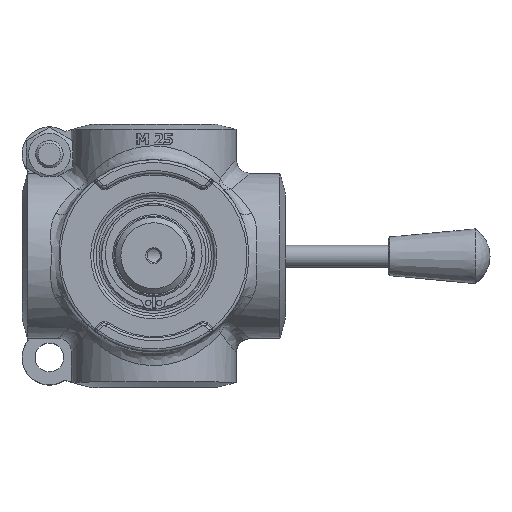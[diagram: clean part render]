
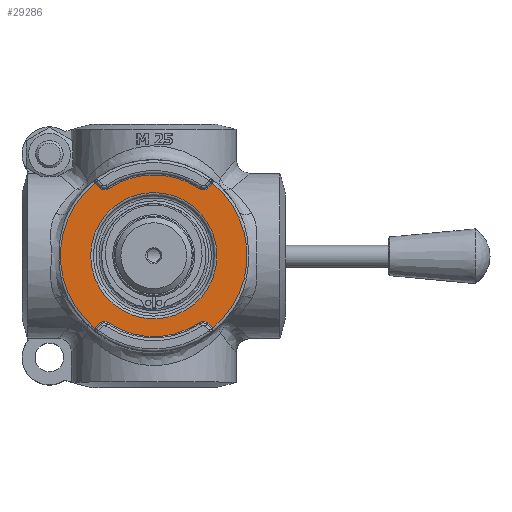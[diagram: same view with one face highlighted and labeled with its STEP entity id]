
A CAD part, top view. The second image highlights one B-rep face of the part: STEP entity #29286.
In plain terms, the highlighted planar face has unit normal (0, 0, 1).
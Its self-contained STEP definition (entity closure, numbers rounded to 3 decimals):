
#20663=CARTESIAN_POINT('',(23.,0.,93.));
#20664=VERTEX_POINT('',#20663);
#20665=CARTESIAN_POINT('',(0.,0.,93.));
#20666=DIRECTION('',(0.0,0.0,1.0));
#20667=DIRECTION('',(-1.0,0.0,0.0));
#20668=AXIS2_PLACEMENT_3D('',#20665,#20666,#20667);
#20669=CIRCLE('',#20668,23.);
#20670=EDGE_CURVE('',#20664,#20664,#20669,.T.);
#29107=CARTESIAN_POINT('',(-21.43,-26.396,93.));
#29108=VERTEX_POINT('',#29107);
#29120=CARTESIAN_POINT('',(-21.43,26.396,93.));
#29121=VERTEX_POINT('',#29120);
#29122=CARTESIAN_POINT('',(0.,0.,93.));
#29123=DIRECTION('',(0.0,0.0,-1.0));
#29124=DIRECTION('',(-1.0,0.0,0.0));
#29125=AXIS2_PLACEMENT_3D('',#29122,#29123,#29124);
#29126=CIRCLE('',#29125,34.0);
#29127=EDGE_CURVE('',#29108,#29121,#29126,.T.);
#29146=CARTESIAN_POINT('',(0.,0.,93.));
#29147=DIRECTION('',(0.0,0.0,-1.0));
#29148=DIRECTION('',(-1.0,0.0,0.0));
#29149=AXIS2_PLACEMENT_3D('',#29146,#29147,#29148);
#29150=PLANE('',#29149);
#29151=CARTESIAN_POINT('',(21.43,-26.396,93.));
#29152=VERTEX_POINT('',#29151);
#29153=CARTESIAN_POINT('',(21.305,-26.255,93.));
#29154=VERTEX_POINT('',#29153);
#29155=CARTESIAN_POINT('',(20.245,-27.316,93.));
#29156=DIRECTION('',(0.,0.,1.0));
#29157=DIRECTION('',(0.752,0.659,0.));
#29158=AXIS2_PLACEMENT_3D('',#29155,#29156,#29157);
#29159=CIRCLE('',#29158,1.5);
#29160=EDGE_CURVE('',#29152,#29154,#29159,.T.);
#29161=ORIENTED_EDGE('',*,*,#29160,.F.);
#29162=CARTESIAN_POINT('',(21.43,26.396,93.));
#29163=VERTEX_POINT('',#29162);
#29164=CARTESIAN_POINT('',(0.,0.,93.));
#29165=DIRECTION('',(0.0,0.0,-1.0));
#29166=DIRECTION('',(1.0,0.0,0.0));
#29167=AXIS2_PLACEMENT_3D('',#29164,#29165,#29166);
#29168=CIRCLE('',#29167,34.0);
#29169=EDGE_CURVE('',#29163,#29152,#29168,.T.);
#29170=ORIENTED_EDGE('',*,*,#29169,.F.);
#29171=CARTESIAN_POINT('',(21.305,26.255,93.));
#29172=VERTEX_POINT('',#29171);
#29173=CARTESIAN_POINT('',(20.245,27.316,93.));
#29174=DIRECTION('',(0.,0.,1.0));
#29175=DIRECTION('',(0.752,-0.659,0.));
#29176=AXIS2_PLACEMENT_3D('',#29173,#29174,#29175);
#29177=CIRCLE('',#29176,1.5);
#29178=EDGE_CURVE('',#29172,#29163,#29177,.T.);
#29179=ORIENTED_EDGE('',*,*,#29178,.F.);
#29180=CARTESIAN_POINT('',(19.751,24.701,93.));
#29181=VERTEX_POINT('',#29180);
#29182=CARTESIAN_POINT('',(19.751,24.701,93.));
#29183=DIRECTION('',(0.707,0.707,0.0));
#29184=VECTOR('',#29183,2.198);
#29185=LINE('',#29182,#29184);
#29186=EDGE_CURVE('',#29181,#29172,#29185,.T.);
#29187=ORIENTED_EDGE('',*,*,#29186,.F.);
#29188=CARTESIAN_POINT('',(16.579,24.401,93.));
#29189=VERTEX_POINT('',#29188);
#29190=CARTESIAN_POINT('',(17.983,26.469,93.));
#29191=DIRECTION('',(0.,0.,1.0));
#29192=DIRECTION('',(0.094,-0.996,0.));
#29193=AXIS2_PLACEMENT_3D('',#29190,#29191,#29192);
#29194=CIRCLE('',#29193,2.5);
#29195=EDGE_CURVE('',#29189,#29181,#29194,.T.);
#29196=ORIENTED_EDGE('',*,*,#29195,.F.);
#29197=CARTESIAN_POINT('',(-16.579,24.401,93.));
#29198=VERTEX_POINT('',#29197);
#29199=CARTESIAN_POINT('',(0.,0.,93.));
#29200=DIRECTION('',(0.0,0.0,-1.0));
#29201=DIRECTION('',(0.0,1.0,0.0));
#29202=AXIS2_PLACEMENT_3D('',#29199,#29200,#29201);
#29203=CIRCLE('',#29202,29.5);
#29204=EDGE_CURVE('',#29198,#29189,#29203,.T.);
#29205=ORIENTED_EDGE('',*,*,#29204,.F.);
#29206=CARTESIAN_POINT('',(-19.751,24.701,93.));
#29207=VERTEX_POINT('',#29206);
#29208=CARTESIAN_POINT('',(-17.983,26.469,93.));
#29209=DIRECTION('',(0.,0.,1.0));
#29210=DIRECTION('',(-0.094,-0.996,0.));
#29211=AXIS2_PLACEMENT_3D('',#29208,#29209,#29210);
#29212=CIRCLE('',#29211,2.5);
#29213=EDGE_CURVE('',#29207,#29198,#29212,.T.);
#29214=ORIENTED_EDGE('',*,*,#29213,.F.);
#29215=CARTESIAN_POINT('',(-21.305,26.255,93.));
#29216=VERTEX_POINT('',#29215);
#29217=CARTESIAN_POINT('',(-21.305,26.255,93.));
#29218=DIRECTION('',(0.707,-0.707,0.0));
#29219=VECTOR('',#29218,2.198);
#29220=LINE('',#29217,#29219);
#29221=EDGE_CURVE('',#29216,#29207,#29220,.T.);
#29222=ORIENTED_EDGE('',*,*,#29221,.F.);
#29223=CARTESIAN_POINT('',(-20.245,27.316,93.));
#29224=DIRECTION('',(0.,0.,1.0));
#29225=DIRECTION('',(-0.752,-0.659,0.));
#29226=AXIS2_PLACEMENT_3D('',#29223,#29224,#29225);
#29227=CIRCLE('',#29226,1.5);
#29228=EDGE_CURVE('',#29121,#29216,#29227,.T.);
#29229=ORIENTED_EDGE('',*,*,#29228,.F.);
#29230=ORIENTED_EDGE('',*,*,#29127,.F.);
#29231=CARTESIAN_POINT('',(-21.305,-26.255,93.));
#29232=VERTEX_POINT('',#29231);
#29233=CARTESIAN_POINT('',(-20.245,-27.316,93.));
#29234=DIRECTION('',(0.,0.,1.0));
#29235=DIRECTION('',(-0.752,0.659,0.));
#29236=AXIS2_PLACEMENT_3D('',#29233,#29234,#29235);
#29237=CIRCLE('',#29236,1.5);
#29238=EDGE_CURVE('',#29232,#29108,#29237,.T.);
#29239=ORIENTED_EDGE('',*,*,#29238,.F.);
#29240=CARTESIAN_POINT('',(-19.751,-24.701,93.));
#29241=VERTEX_POINT('',#29240);
#29242=CARTESIAN_POINT('',(-19.751,-24.701,93.));
#29243=DIRECTION('',(-0.707,-0.707,0.0));
#29244=VECTOR('',#29243,2.198);
#29245=LINE('',#29242,#29244);
#29246=EDGE_CURVE('',#29241,#29232,#29245,.T.);
#29247=ORIENTED_EDGE('',*,*,#29246,.F.);
#29248=CARTESIAN_POINT('',(-16.579,-24.401,93.));
#29249=VERTEX_POINT('',#29248);
#29250=CARTESIAN_POINT('',(-17.983,-26.469,93.));
#29251=DIRECTION('',(0.,0.,1.0));
#29252=DIRECTION('',(-0.094,0.996,0.));
#29253=AXIS2_PLACEMENT_3D('',#29250,#29251,#29252);
#29254=CIRCLE('',#29253,2.5);
#29255=EDGE_CURVE('',#29249,#29241,#29254,.T.);
#29256=ORIENTED_EDGE('',*,*,#29255,.F.);
#29257=CARTESIAN_POINT('',(16.579,-24.401,93.));
#29258=VERTEX_POINT('',#29257);
#29259=CARTESIAN_POINT('',(0.,0.,93.));
#29260=DIRECTION('',(0.0,0.0,-1.0));
#29261=DIRECTION('',(0.0,-1.0,0.0));
#29262=AXIS2_PLACEMENT_3D('',#29259,#29260,#29261);
#29263=CIRCLE('',#29262,29.5);
#29264=EDGE_CURVE('',#29258,#29249,#29263,.T.);
#29265=ORIENTED_EDGE('',*,*,#29264,.F.);
#29266=CARTESIAN_POINT('',(19.751,-24.701,93.));
#29267=VERTEX_POINT('',#29266);
#29268=CARTESIAN_POINT('',(17.983,-26.469,93.));
#29269=DIRECTION('',(0.,0.,1.0));
#29270=DIRECTION('',(0.094,0.996,0.));
#29271=AXIS2_PLACEMENT_3D('',#29268,#29269,#29270);
#29272=CIRCLE('',#29271,2.5);
#29273=EDGE_CURVE('',#29267,#29258,#29272,.T.);
#29274=ORIENTED_EDGE('',*,*,#29273,.F.);
#29275=CARTESIAN_POINT('',(21.305,-26.255,93.));
#29276=DIRECTION('',(-0.707,0.707,0.0));
#29277=VECTOR('',#29276,2.198);
#29278=LINE('',#29275,#29277);
#29279=EDGE_CURVE('',#29154,#29267,#29278,.T.);
#29280=ORIENTED_EDGE('',*,*,#29279,.F.);
#29281=EDGE_LOOP('',(#29161,#29170,#29179,#29187,#29196,#29205,#29214,#29222,#29229,#29230,#29239,#29247,#29256,#29265,#29274,#29280));
#29282=FACE_OUTER_BOUND('',#29281,.T.);
#29283=ORIENTED_EDGE('',*,*,#20670,.F.);
#29284=EDGE_LOOP('',(#29283));
#29285=FACE_BOUND('',#29284,.T.);
#29286=ADVANCED_FACE('',(#29282,#29285),#29150,.F.);
